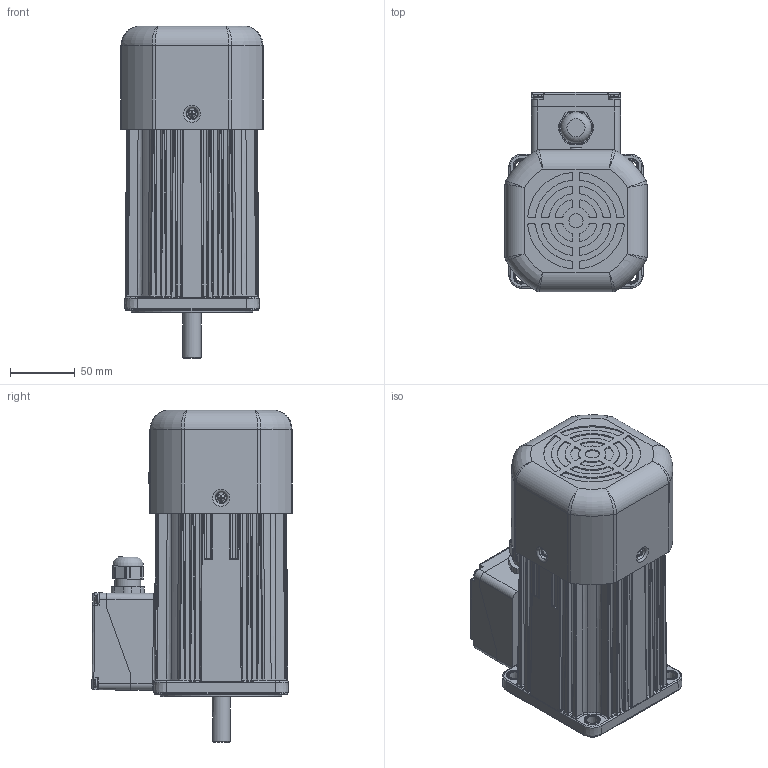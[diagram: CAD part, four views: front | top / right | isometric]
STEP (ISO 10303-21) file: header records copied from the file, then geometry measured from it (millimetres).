
FILE_DESCRIPTION (( 'STEP AP214' ), '1' );
FILE_NAME ('10BDKE-250FWH-T.STEP', '2025-01-13T07:56:40', ( '' ), ( '' ), 'SwSTEP 2.0', 'SolidWorks 2024', '' );
FILE_SCHEMA (( 'AUTOMOTIVE_DESIGN' ));
Length unit declared in the file: millimetre
Products named in the file (3): TB8090; 10BDKE-250FWH; 10BDKE-250FWH-T
Assembly tree (2 placements, depth 2):
  10BDKE-250FWH-T
    10BDKE-250FWH
    TB8090
Bounding box: 110 x 154.94 x 257 mm (x, y, z)
Volume: 2350873.4 mm3; surface area: 160236.2 mm2
Topology: 4 solids, 4 shells, 912 faces, 2327 edges, 1436 vertices
Faces by surface type: plane 392, cylinder 263, bspline 158, cone 80, torus 13, sphere 6
Full cylindrical faces by diameter (mm): 4 x1, 5.8 x4, 6.7 x4, 8 x4, 11 x1, 14 x1, 18 x1, 20 x1, 43 x1, 94 x1
Entity records: 48919 total; most frequent: CARTESIAN_POINT 28656, ORIENTED_EDGE 4416, DIRECTION 3756, EDGE_CURVE 2208, VERTEX_POINT 1416, AXIS2_PLACEMENT_3D 1316, VECTOR 1124, LINE 1124
